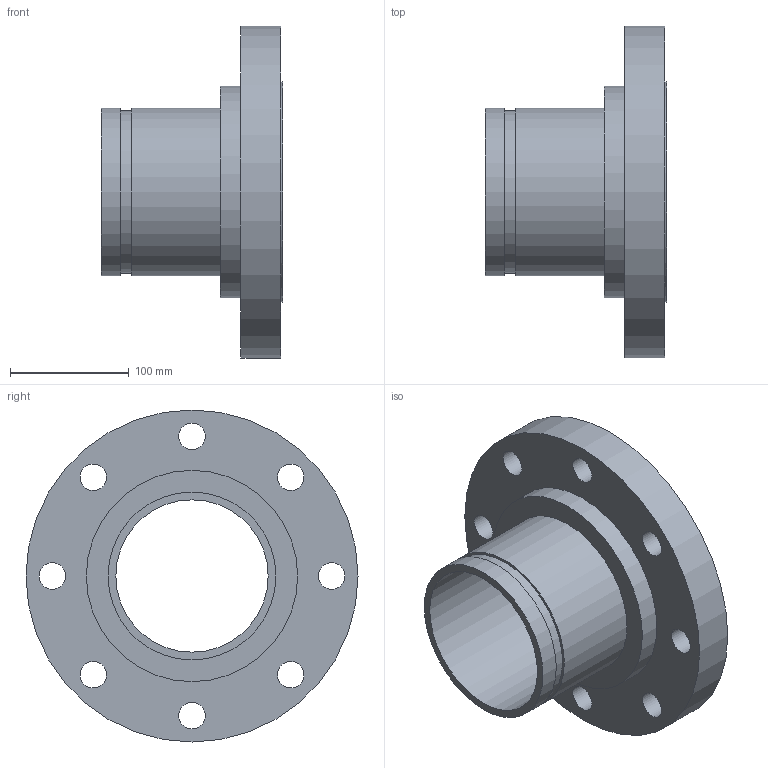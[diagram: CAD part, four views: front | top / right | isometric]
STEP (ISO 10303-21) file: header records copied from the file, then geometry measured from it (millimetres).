
FILE_DESCRIPTION(/* description */ ('VIC FLANGE ADAPTER No 46R','CAx-IF Rec.Pracs.---Representation and Presentation of Product Manufacturing Information (PMI)---4.0---2014-10-13'),/* implementation_level */ '2;1');
FILE_NAME(/* name */ 'C:\Users\kkamble\AppData\Roaming\Autodesk\ApplicationPlugins\Back Up\Victaulic_IPS_Flanged Adapter Nipple_CL 300 RF_No 46R (OGSxFLG)\Victaulic_IPS_Flanged Adapter Nipple_CL 300 RF_No 46R (OGSxFLG)_5 (125).stp',/* time_stamp */ '2020-07-26T22:25:53+06:00',/* author */ ('CONSTRUCTION PIPING SERVICES'),/* organization */ ('Victaulic'),/* preprocessor_version */ 'ST-DEVELOPER v17.2',/* originating_system */ 'Autodesk Inventor 2019',/* authorisation */ '');
FILE_SCHEMA (('AP242_MANAGED_MODEL_BASED_3D_ENGINEERING_MIM_LF { 1 0 10303 442 1 1 4 }'));
Length unit declared in the file: inch
Products named in the file (1): 046R-05.0
Bounding box: 152.4 x 279.4 x 279.4 mm (x, y, z)
Volume: 2013903.4 mm3; surface area: 256871.1 mm2
Topology: 1 solids, 1 shells, 22 faces, 59 edges, 44 vertices
Faces by surface type: cylinder 15, plane 7
Full cylindrical faces by diameter (mm): 22.352 x8, 128.194 x1, 137.033 x1, 141.3 x2, 177.8 x1, 185.674 x1, 279.4 x1
Entity records: 849 total; most frequent: DIRECTION 149, CARTESIAN_POINT 126, ORIENTED_EDGE 118, AXIS2_PLACEMENT_3D 67, EDGE_CURVE 59, EDGE_LOOP 45, CIRCLE 44, VERTEX_POINT 44
